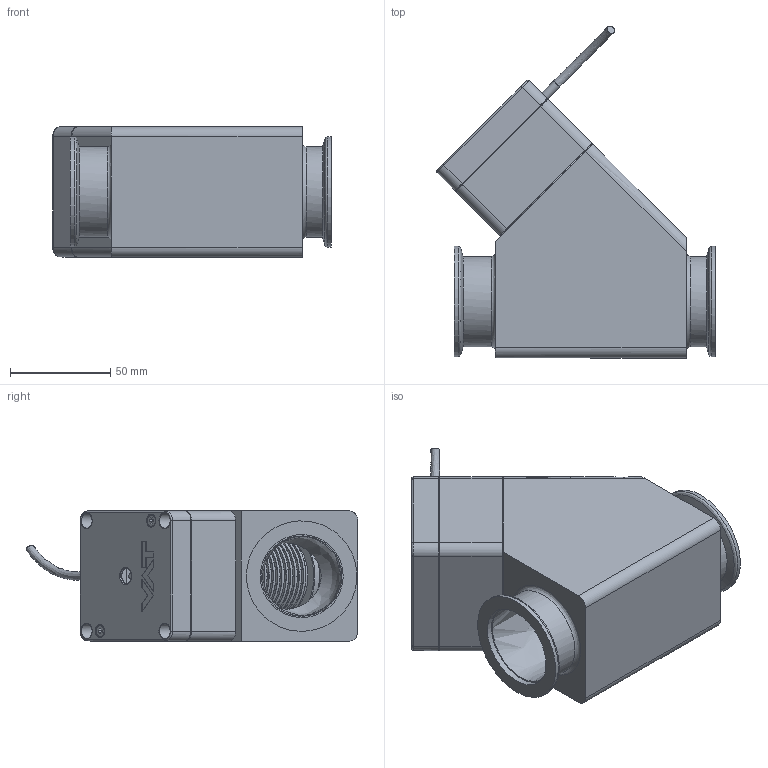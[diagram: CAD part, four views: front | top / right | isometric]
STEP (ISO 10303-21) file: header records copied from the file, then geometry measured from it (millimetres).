
FILE_DESCRIPTION((''),'2;1');
FILE_NAME('O:\MT\MT\Systeme\Cad\Datenexporte\www_vat_ch\256623.stp','2004-11-18T14:31:14',('User'),('SDRC'),'I-DEAS Master Series 9','UNIX','Yes');
FILE_SCHEMA(('CONFIG_CONTROL_DESIGN'));
Length unit declared in the file: millimetre
Assembly tree (15 placements, depth 0):
Bounding box: 138.81 x 165.23 x 65.07 mm (x, y, z)
Volume: 384295.2 mm3; surface area: 203924.2 mm2
Topology: 22 solids, 22 shells, 707 faces, 1554 edges, 1015 vertices
Faces by surface type: bspline 707
Entity records: 28267 total; most frequent: CARTESIAN_POINT 17951, ORIENTED_EDGE 2784, EDGE_CURVE 1392, VERTEX_POINT 907, EDGE_LOOP 781, FACE_OUTER_BOUND 632, ADVANCED_FACE 632, B_SPLINE_CURVE_WITH_KNOTS 569
